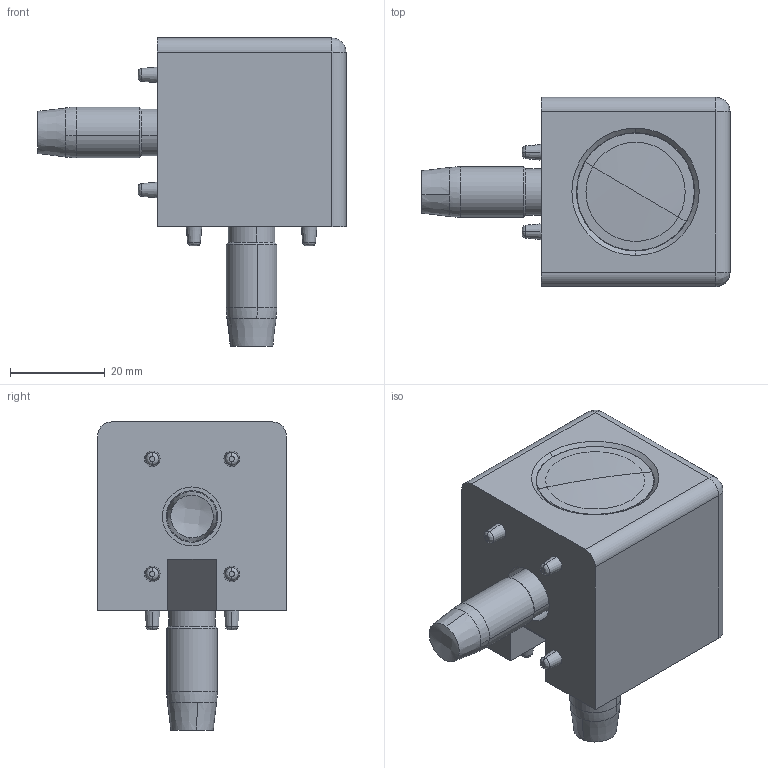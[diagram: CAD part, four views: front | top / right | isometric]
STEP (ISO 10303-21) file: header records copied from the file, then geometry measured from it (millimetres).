
FILE_DESCRIPTION (( 'STEP AP203' ), '1' );
FILE_NAME ('334024_Würfelverbinder-Satz 40-2.step', '2018-11-28T07:33:13', ( '' ), ( '' ), 'SwSTEP 2.0', 'SolidWorks 2017', '' );
FILE_SCHEMA (( 'CONFIG_CONTROL_DESIGN' ));
Length unit declared in the file: millimetre
Products named in the file (4): 334024_Würfelverbinder-Satz 40-2; 99900182 Abdeckkappe Würfelverbinder D24 schwarz; 330020 Zentralschraube SF12x30 T50; 99900772 Würfelverbinder 40-2
Assembly tree (5 placements, depth 2):
  334024_Würfelverbinder-Satz 40-2
    99900772 Würfelverbinder 40-2
    330020 Zentralschraube SF12x30 T50  x2
    99900182 Abdeckkappe Würfelverbinder D24 schwarz  x2
Bounding box: 65.2 x 40 x 65.2 mm (x, y, z)
Volume: 47848.6 mm3; surface area: 18097.6 mm2
Topology: 5 solids, 5 shells, 288 faces, 748 edges, 478 vertices
Faces by surface type: cylinder 99, plane 99, cone 48, bspline 30, torus 8, sphere 4
Entity records: 6825 total; most frequent: CARTESIAN_POINT 1946, DIRECTION 956, ORIENTED_EDGE 930, EDGE_CURVE 465, AXIS2_PLACEMENT_3D 379, VERTEX_POINT 297, CIRCLE 213, EDGE_LOOP 202
